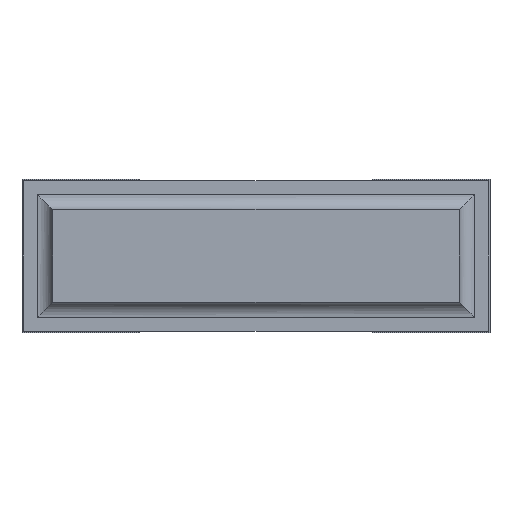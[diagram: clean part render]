
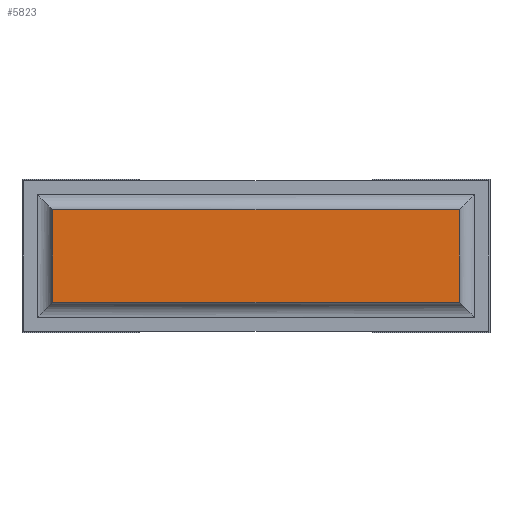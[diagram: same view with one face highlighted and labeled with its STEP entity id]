
A CAD part, front view. The second image highlights one B-rep face of the part: STEP entity #5823.
In plain terms, the highlighted planar face has unit normal (0, -1, 0).
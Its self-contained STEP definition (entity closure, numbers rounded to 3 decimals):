
#128=PLANE('',#6184);
#381=FACE_OUTER_BOUND('',#706,.T.);
#706=EDGE_LOOP('',(#4061,#4062,#4063,#4064));
#1018=LINE('',#8258,#1768);
#1022=LINE('',#8268,#1772);
#1045=LINE('',#8317,#1795);
#1048=LINE('',#8327,#1798);
#1768=VECTOR('',#6617,10.);
#1772=VECTOR('',#6627,10.);
#1795=VECTOR('',#6668,10.);
#1798=VECTOR('',#6683,10.);
#2555=VERTEX_POINT('',#8255);
#2556=VERTEX_POINT('',#8257);
#2559=VERTEX_POINT('',#8267);
#2576=VERTEX_POINT('',#8314);
#3124=EDGE_CURVE('',#2556,#2555,#1018,.T.);
#3129=EDGE_CURVE('',#2559,#2556,#1022,.T.);
#3154=EDGE_CURVE('',#2576,#2559,#1045,.T.);
#3159=EDGE_CURVE('',#2555,#2576,#1048,.T.);
#4061=ORIENTED_EDGE('',*,*,#3124,.T.);
#4062=ORIENTED_EDGE('',*,*,#3159,.T.);
#4063=ORIENTED_EDGE('',*,*,#3154,.T.);
#4064=ORIENTED_EDGE('',*,*,#3129,.T.);
#5823=ADVANCED_FACE('',(#381),#128,.T.);
#6184=AXIS2_PLACEMENT_3D('',#8332,#6689,#6690);
#6617=DIRECTION('',(0.,0.,-1.));
#6627=DIRECTION('',(-1.,0.,0.));
#6668=DIRECTION('',(0.,0.,1.));
#6683=DIRECTION('',(1.,0.,0.));
#6689=DIRECTION('center_axis',(0.,-1.,0.));
#6690=DIRECTION('ref_axis',(0.,0.,-1.));
#8255=CARTESIAN_POINT('',(0.1,0.,0.1));
#8257=CARTESIAN_POINT('',(0.1,0.,0.4));
#8258=CARTESIAN_POINT('',(0.1,0.,0.4));
#8267=CARTESIAN_POINT('',(1.42,0.,0.4));
#8268=CARTESIAN_POINT('',(1.42,0.,0.4));
#8314=CARTESIAN_POINT('',(1.42,0.,0.1));
#8317=CARTESIAN_POINT('',(1.42,0.,0.1));
#8327=CARTESIAN_POINT('',(0.1,0.,0.1));
#8332=CARTESIAN_POINT('Origin',(0.1,0.,0.25));
